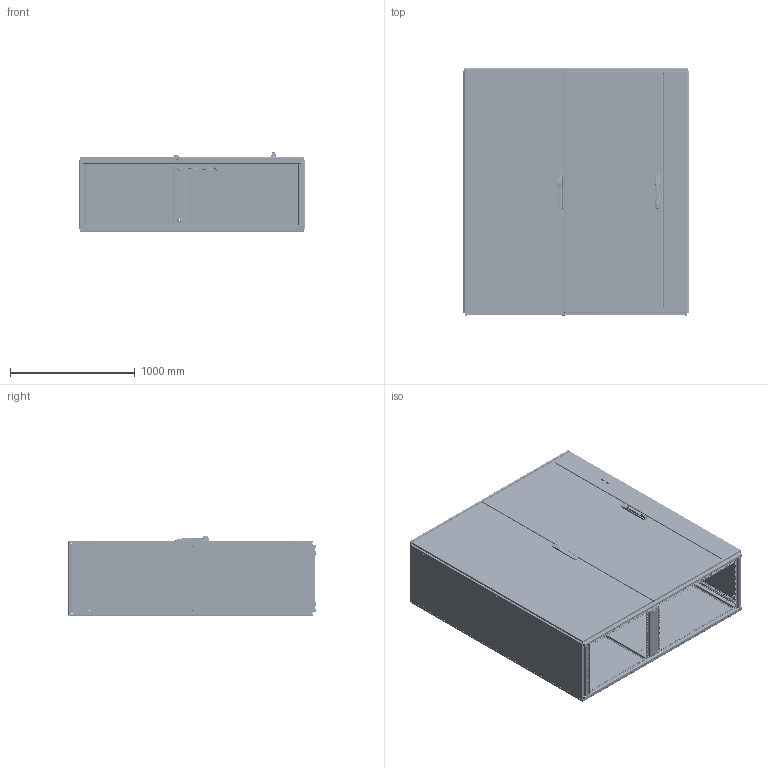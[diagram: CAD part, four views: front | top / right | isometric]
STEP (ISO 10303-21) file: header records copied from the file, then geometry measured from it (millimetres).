
FILE_DESCRIPTION (( 'STEP AP203' ), '1' );
FILE_NAME ('ptddc20186.STEP', '2013-05-14T14:24:47', ( 'User' ), ( 'Pentair Inc' ), 'SwSTEP 2.0', 'SolidWorks 2010', '' );
FILE_SCHEMA (( 'CONFIG_CONTROL_DESIGN' ));
Products named in the file (163): ptddc20186; 87413735_87413735; 60127013; 30127014; 87413728_87413728; 87413727_87413727; 30127058; 30127907_30127907; 87938328_87938328; 30127927_30127927; 87938314_87938314; 53412000_53412000; 60127024_As installed; 87415685; 87415683_87419205; 87415684; 87540542; 87419205_87419205; 99411407_99411407; 87415722; 87540541; 87540546; 87953739; 89046032_89046032; 89046031_89046031; 87931362_87931362; 87953738_FIP GASKET; 22127048_22127048; 60127376_60127376; 60127197_60127197; 11458038_11458038; 11458036; 51140001; 11358764; 11258013; 11258012; 11358763; 51138002_Compressed; 60127093; 51137001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
Assembly tree (378 placements, depth 5):
  ptddc20186
    60127214_601272214  x9
      60127135_Installed postion
      87790201_87790201
      60127199_60127199
      56906712_56906712
    87790199  x9
    89048132_89048132  x2
      60100041_60100041
        87931527_87931527
        87931368_SLEEVE
      89048111_89048111
      87953198_87953198
    60127219_60127219  x12
      56906712_56906712
      60127199_60127199
      87790197_87790197
    11258920
      21158133
        89064467
        99401591_As Installed  x3
        87785596
      26132028_26132028  x4
      26174001_Full Extension
      26174001
      22318002  x2
      46105001
      87781603
    21158152  x2
    87415685
      87415684  x2
      87415683_87419205
    87540546  x2
    89100976_DOOR ASSY
      11458080_11458080
        60127101_After Weld  x3
        87920638_87920638  x6
        87937502_GASKET
        60100041_60100041  x2
          87931527_87931527
          87931368_SLEEVE
        31127220_31127220
        60127172_60127172  x2
      87792981  x2
      87576034_87576034  x4
      87562939_87562939  x6
      87570417
      87547883_87547883
      60127277_60127277  x2
        51232001_51232001
        60127173_60127173
      60127224_60127224
        11158133_11581133  x3
        60127175_60127175  x2
        11158132_THIKNESS .155 FIXED  x8
        60127139_60127139  x4
        60127216_60127216  x3
          60127138_60127138
          60127140_60127140
          87576035_87576035
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Bounding box: 1809.23 x 1982.22 x 638.82 mm (x, y, z)
Volume: 29273027.7 mm3; surface area: 31553013.5 mm2
Topology: 426 solids, 426 shells, 37017 faces, 97736 edges, 61897 vertices
Faces by surface type: plane 19534, cylinder 11934, torus 2714, cone 1698, bspline 1069, sphere 68
Entity records: 491840 total; most frequent: CARTESIAN_POINT 119404, ORIENTED_EDGE 72538, DIRECTION 71141, EDGE_CURVE 36269, AXIS2_PLACEMENT_3D 24193, VERTEX_POINT 23276, LINE 22755, VECTOR 22755
